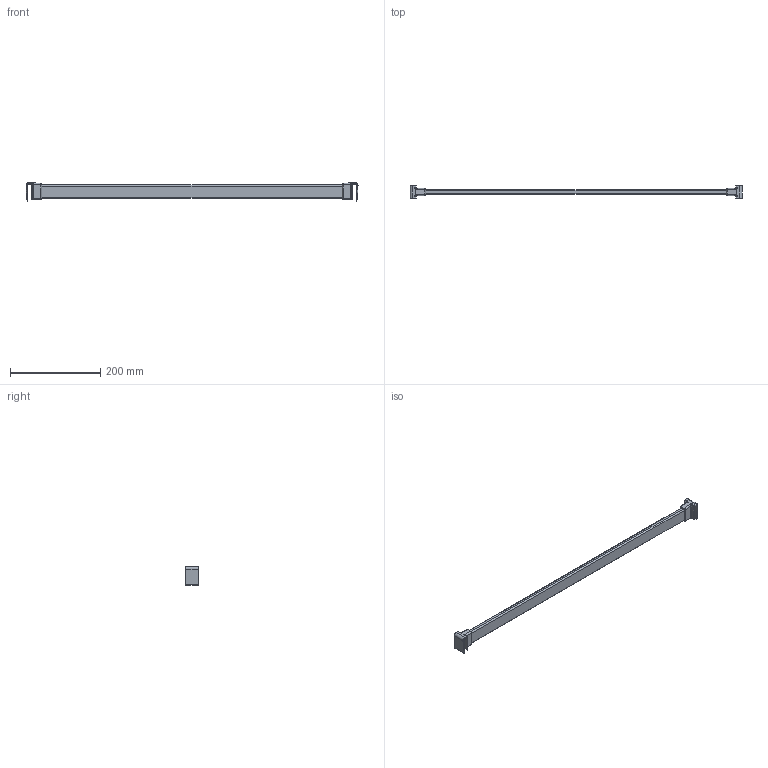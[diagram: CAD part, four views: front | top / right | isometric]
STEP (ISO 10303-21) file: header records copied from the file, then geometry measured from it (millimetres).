
FILE_DESCRIPTION (( 'STEP AP214' ), '1' );
FILE_NAME ('_Querreling_KAB-800_KS-19_P602_Glashalter.step', '2010-08-26T14:58:51', ( 'grass' ), ( '' ), 'SwSTEP 2.0', 'SolidWorks 2009', '' );
FILE_SCHEMA (( 'AUTOMOTIVE_DESIGN' ));
Length unit declared in the file: millimetre
Products named in the file (1): _Querreling_KAB-800_KS-19_P602_Glashalter
Bounding box: 734.78 x 30 x 41.5 mm (x, y, z)
Volume: 241373 mm3; surface area: 65527.2 mm2
Topology: 1 solids, 1 shells, 124 faces, 300 edges, 176 vertices
Faces by surface type: cylinder 58, plane 34, torus 16, bspline 12, sphere 4
Entity records: 5090 total; most frequent: CARTESIAN_POINT 2269, ORIENTED_EDGE 592, DIRECTION 590, EDGE_CURVE 296, AXIS2_PLACEMENT_3D 225, VERTEX_POINT 176, LINE 140, VECTOR 140
